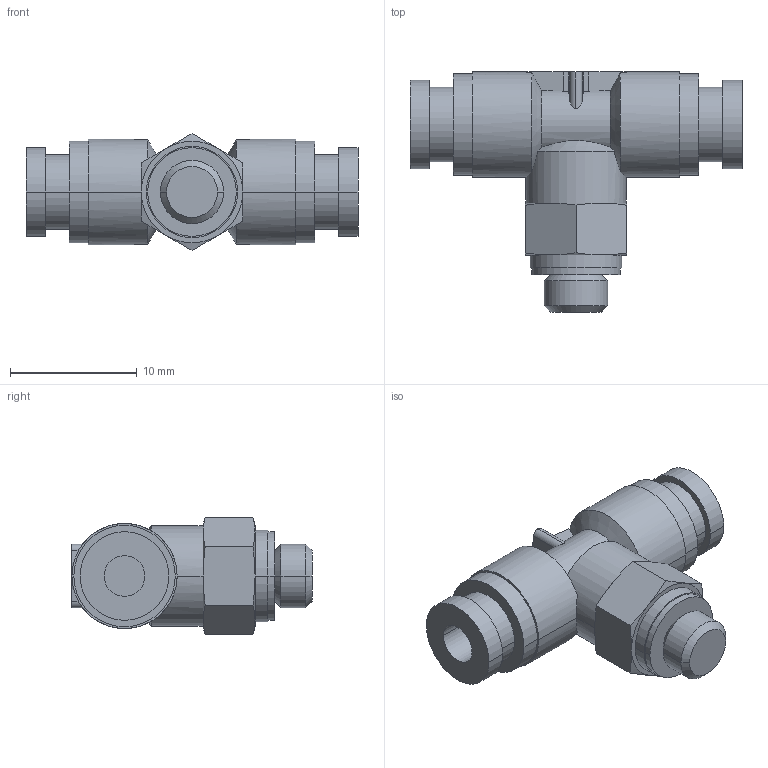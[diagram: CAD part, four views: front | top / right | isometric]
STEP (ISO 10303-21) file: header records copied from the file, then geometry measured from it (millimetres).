
FILE_DESCRIPTION( ( '' ), '1' );
FILE_NAME( 'G:/SMC狟婥/KQ2T23-M5A.stp', '2023-03-07T03:11:44', ( '' ), ( '' ), ' ', ' ', ' ' );
FILE_SCHEMA( ( 'CONFIG_CONTROL_DESIGN' ) );
Length unit declared in the file: millimetre
Products named in the file (1): 1
Bounding box: 26.2 x 18.95 x 9.24 mm (x, y, z)
Volume: 1430.3 mm3; surface area: 1351 mm2
Topology: 1 solids, 1 shells, 94 faces, 218 edges, 138 vertices
Faces by surface type: cylinder 38, plane 34, cone 22
Entity records: 2897 total; most frequent: CARTESIAN_POINT 750, DIRECTION 454, ORIENTED_EDGE 436, EDGE_CURVE 218, AXIS2_PLACEMENT_3D 191, VERTEX_POINT 138, EDGE_LOOP 106, ADVANCED_FACE 94
